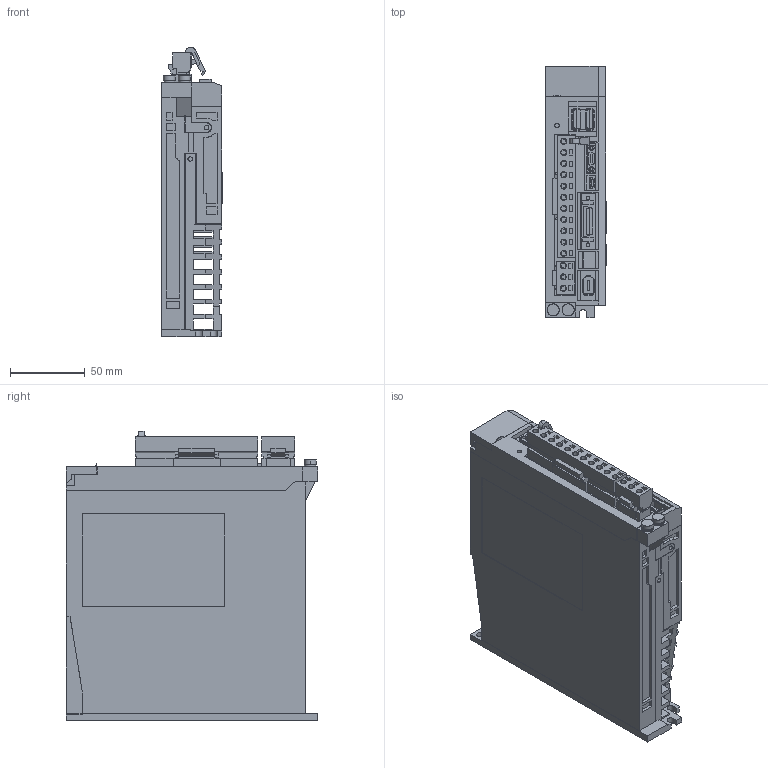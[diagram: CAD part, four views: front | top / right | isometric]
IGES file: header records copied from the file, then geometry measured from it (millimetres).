
Start section: SolidWorks IGES file using analytic representation for surfaces
Global section: file name: D:\YASKAWA\sgd7s_2r8a10a.IGS; native system: SolidWorks 2006 by SolidWorks Corporation; preprocessor: SolidWorks 2006 by SolidWorks Corporation; author: yamanouchi; date: 140306.133018; units: millimetre
Bounding box: 40.5 x 168 x 193.84 mm (x, y, z)
Surface area: 169277.5 mm2 (no closed solid volume)
Topology: 0 solids, 0 shells, 1717 faces, 12715 edges, 12715 vertices
Faces by surface type: bspline 1570, revolution 147
